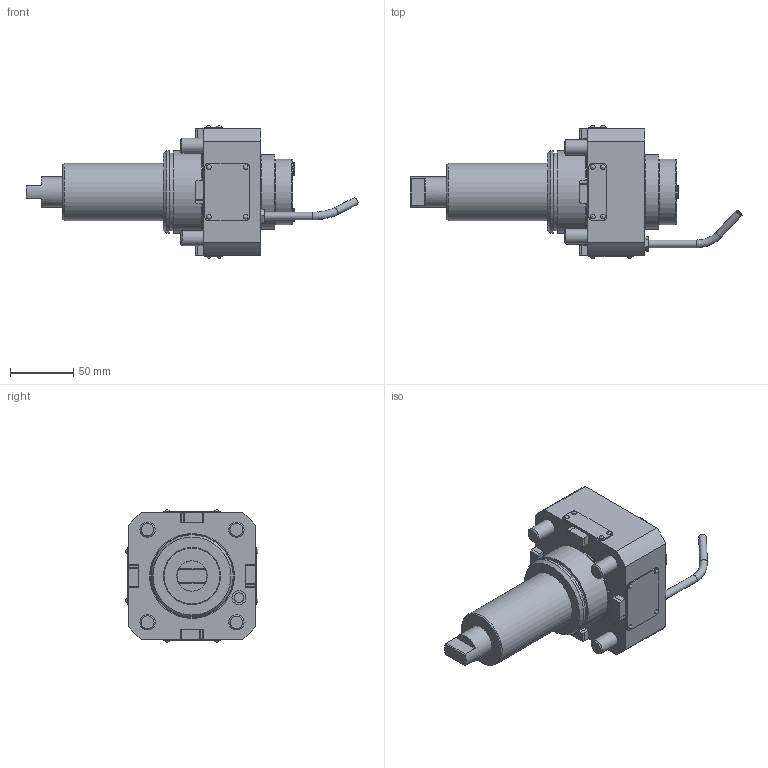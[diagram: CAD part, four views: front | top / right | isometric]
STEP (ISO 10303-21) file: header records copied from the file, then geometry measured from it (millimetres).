
FILE_DESCRIPTION(/* description */ (''),/* implementation_level */ '2;1');
FILE_NAME(/* name */ '196271-UNI',/* time_stamp */ '2022-09-13T11:23:58+02:00',/* author */ (''),/* organization */ (''),/* preprocessor_version */ 'ST-DEVELOPER v16.5',/* originating_system */ 'HiCAD 2017 2201.0 Build 268',/* authorisation */ '');
FILE_SCHEMA (('AUTOMOTIVE_DESIGN { 1 0 10303 214 1 1 1 1 }'));
Products named in the file (2): Root; Teil
Assembly tree (1 placements, depth 2):
  Root
    Teil
Bounding box: 261.61 x 104.58 x 104.6 mm (x, y, z)
Volume: 727668.9 mm3; surface area: 86889.7 mm2
Topology: 1 solids, 20 shells, 949 faces, 2299 edges, 1519 vertices
Faces by surface type: plane 635, bspline 146, cylinder 94, cone 36, torus 22, sphere 16
Full cylindrical faces by diameter (mm): 2.2 x4, 2.3 x12, 3.1 x8, 4 x2, 5 x1, 6 x4, 6.6 x2, 7.65 x1, 9 x2, 10 x3, 11 x2, 11.01 x1, 12 x4, 12.5 x2, 18 x4, 20 x5, 22 x4, 23.8 x1, 45 x1, 50 x1, 52 x1, 56 x1, 59 x1, 60.8 x1, 64.5 x1, 64.9 x2
Entity records: 55346 total; most frequent: CARTESIAN_POINT 15017, PRESENTATION_STYLE_ASSIGNMENT 4193, COLOUR_RGB 4193, DRAUGHTING_PRE_DEFINED_CURVE_FONT 4192, CURVE_STYLE 4192, OVER_RIDING_STYLED_ITEM 4192, ORIENTED_EDGE 4192, DIRECTION 3465
